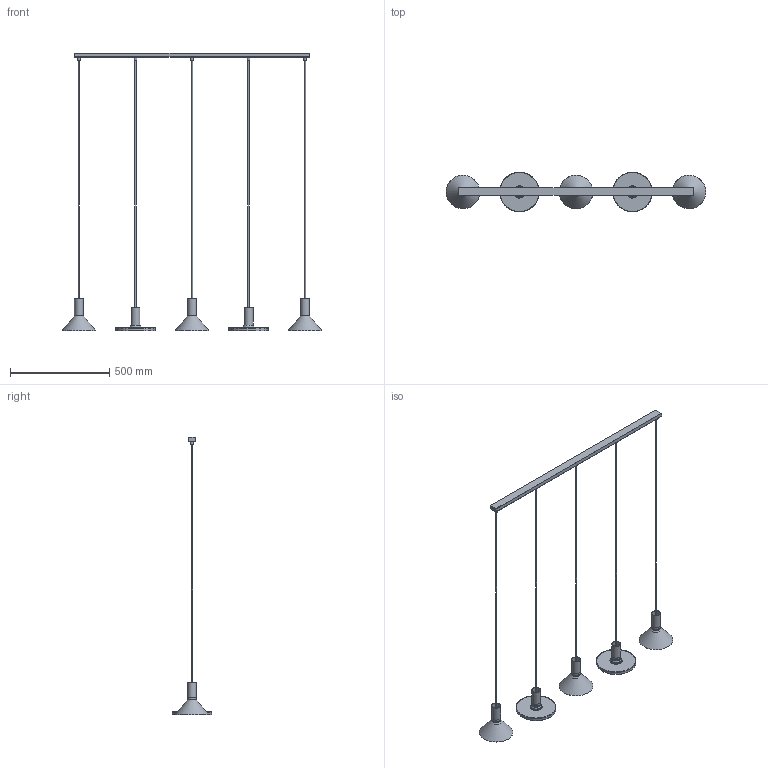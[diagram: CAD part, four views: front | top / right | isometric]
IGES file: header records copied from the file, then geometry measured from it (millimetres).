
Start section: SolidWorks IGES file using analytic representation for surfaces
Global section: file name: X:\PRODUKT\Modele 3D_WWW\_KOLEKCJE WWW\HERMANOS\8032\HERMANOS-V-8032.IGS; native system: SolidWorks 2021; preprocessor: SolidWorks 2021; author: gabriela.tworek; date: 220912.111316; units: millimetre
Bounding box: 1309.79 x 199.89 x 1400 mm (x, y, z)
Surface area: 783419.8 mm2 (no closed solid volume)
Topology: 0 solids, 0 shells, 133 faces, 342 edges, 272 vertices
Faces by surface type: revolution 73, bspline 60
